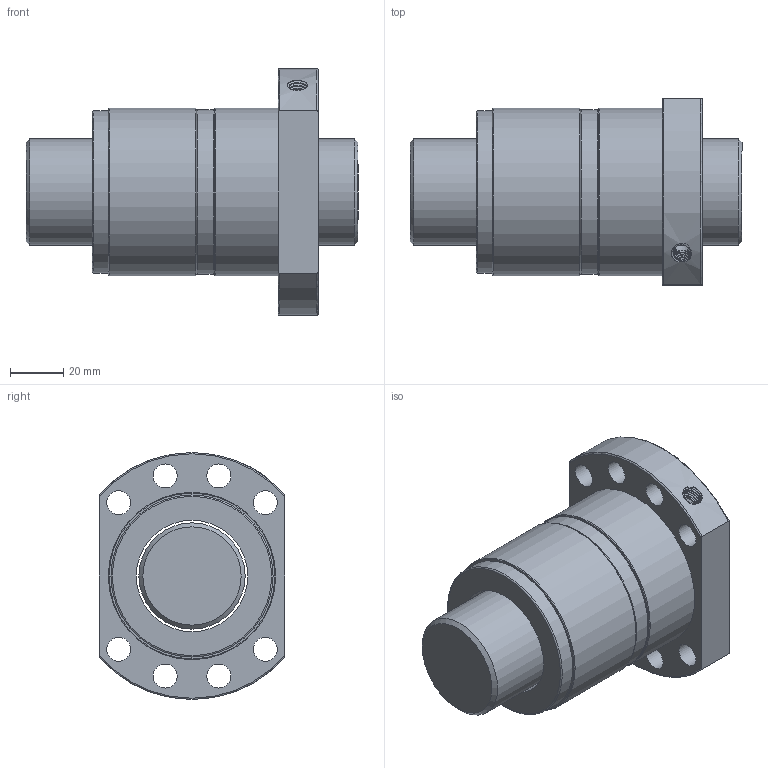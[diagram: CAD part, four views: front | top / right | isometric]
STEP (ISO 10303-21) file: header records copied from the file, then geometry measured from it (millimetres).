
FILE_DESCRIPTION(/* description */ ('Unknown','CAx-IF Rec.Pracs.---Representation and Presentation of Product Manufacturing Information (PMI)---4.0---2014-10-13','CAx-IF Rec.Pracs.---3D Tessellated Geometry---0.4---2014-09-14','2;1'),/* implementation_level */ '2;1');
FILE_NAME(/* name */ 'DFS04005',/* time_stamp */ '2020-12-08T11:59:07+08:00',/* author */ ('Unknown'),/* organization */ ('Unknown'),/* preprocessor_version */ 'ST-DEVELOPER v16.7',/* originating_system */ 'Solid Edge',/* authorisation */ 'Unknown');
FILE_SCHEMA (('AP242_MANAGED_MODEL_BASED_3D_ENGINEERING_MIM_LF { 1 0 10303 442 1 1 4 }'));
Length unit declared in the file: millimetre
Products named in the file (1): DFS04005
Bounding box: 125 x 70 x 93 mm (x, y, z)
Volume: 333427.1 mm3; surface area: 61730.6 mm2
Topology: 2 solids, 2 shells, 51 faces, 118 edges, 75 vertices
Faces by surface type: cylinder 22, plane 13, torus 11, cone 3, bspline 2
Full cylindrical faces by diameter (mm): 4 x1, 6.917 x1, 9 x8, 40 x1, 42 x1, 61 x2, 62.105 x1, 63 x3
Entity records: 3233 total; most frequent: CARTESIAN_POINT 2098, DIRECTION 224, ORIENTED_EDGE 172, AXIS2_PLACEMENT_3D 108, EDGE_LOOP 104, FACE_BOUND 104, EDGE_CURVE 86, VERTEX_POINT 70
